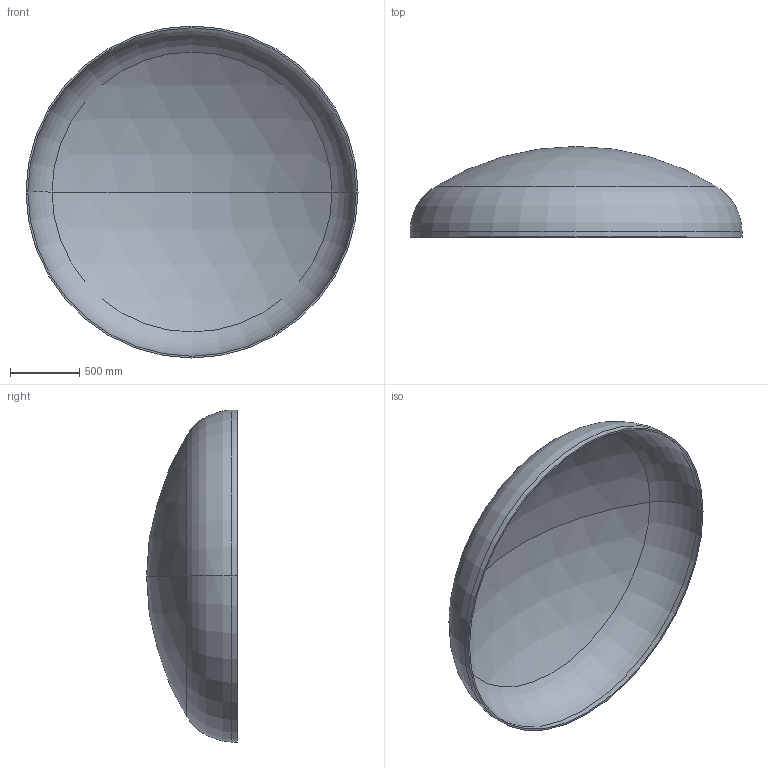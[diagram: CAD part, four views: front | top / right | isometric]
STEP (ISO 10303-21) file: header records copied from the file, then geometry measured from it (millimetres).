
FILE_DESCRIPTION (( 'STEP AP203' ), '1' );
FILE_NAME ('DIN 28013 Korbbogenform_-_Boden DIN 28013 - 2400 x 40 - I - s=13.step', '2016-07-01T15:05:52', ( '' ), ( '' ), 'SwSTEP 2.0', 'SolidWorks 2013', '' );
FILE_SCHEMA (( 'CONFIG_CONTROL_DESIGN' ));
Length unit declared in the file: millimetre
Products named in the file (1): DIN 28013 Korbbogenform_-_Boden DIN 28013 - 2400 x 40 - I - s=13
Bounding box: 2400 x 655.8 x 2400 mm (x, y, z)
Volume: 84789577.4 mm3; surface area: 13142386 mm2
Topology: 1 solids, 1 shells, 13 faces, 24 edges, 14 vertices
Faces by surface type: torus 4, cylinder 4, sphere 4, plane 1
Entity records: 407 total; most frequent: DIRECTION 72, CARTESIAN_POINT 52, ORIENTED_EDGE 48, AXIS2_PLACEMENT_3D 34, EDGE_CURVE 24, CIRCLE 20, EDGE_LOOP 14, VERTEX_POINT 14
